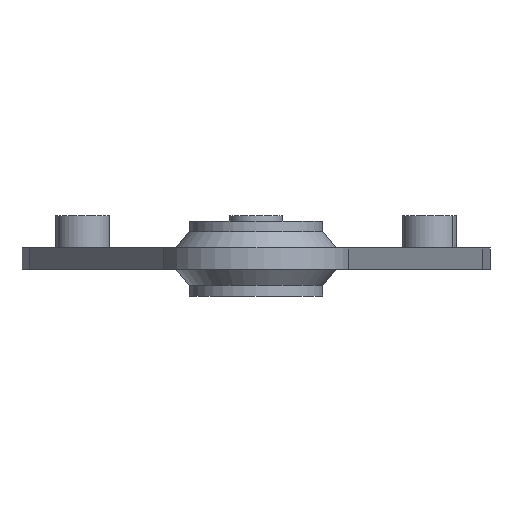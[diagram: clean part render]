
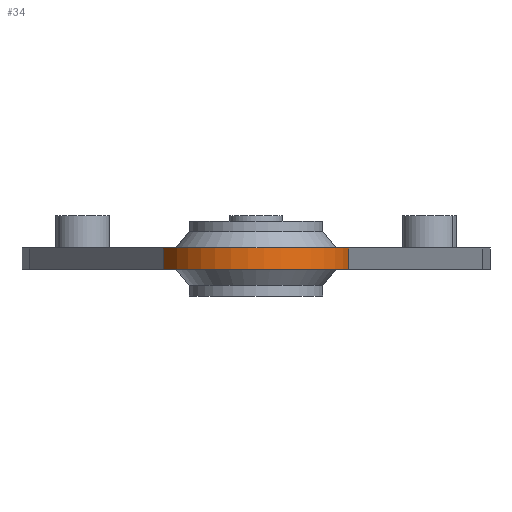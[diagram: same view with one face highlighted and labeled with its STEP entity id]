
A CAD part, front view. The second image highlights one B-rep face of the part: STEP entity #34.
In plain terms, the highlighted cylindrical face has radius 18 mm (diameter 36 mm), a partial arc.
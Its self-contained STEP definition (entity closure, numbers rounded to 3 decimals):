
#34=ADVANCED_FACE('',(#72),#618,.T.);
#72=FACE_OUTER_BOUND('',#110,.T.);
#110=EDGE_LOOP('',(#172,#173,#174,#175));
#172=ORIENTED_EDGE('',*,*,#341,.T.);
#173=ORIENTED_EDGE('',*,*,#331,.T.);
#174=ORIENTED_EDGE('',*,*,#342,.T.);
#175=ORIENTED_EDGE('',*,*,#336,.T.);
#331=EDGE_CURVE('',#555,#557,#525,.T.);
#336=EDGE_CURVE('',#561,#560,#528,.T.);
#341=EDGE_CURVE('',#560,#555,#418,.T.);
#342=EDGE_CURVE('',#557,#561,#419,.T.);
#418=TRIMMED_CURVE($,#472,(#1232),(#1233),.T.,.CARTESIAN.);
#419=TRIMMED_CURVE($,#473,(#1235),(#1236),.T.,.CARTESIAN.);
#472=CIRCLE('',#865,18.);
#473=CIRCLE('',#866,18.);
#525=B_SPLINE_CURVE_WITH_KNOTS('',1,(#1207,#1208),.UNSPECIFIED.,.F.,.F.,
(2,2),(-4.,0.),.UNSPECIFIED.);
#528=B_SPLINE_CURVE_WITH_KNOTS('',1,(#1219,#1220),.UNSPECIFIED.,.F.,.F.,
(2,2),(-4.,0.),.UNSPECIFIED.);
#555=VERTEX_POINT('',#1144);
#557=VERTEX_POINT('',#1146);
#560=VERTEX_POINT('',#1149);
#561=VERTEX_POINT('',#1150);
#618=CYLINDRICAL_SURFACE('',#831,18.);
#831=AXIS2_PLACEMENT_3D('',#1073,#925,$);
#865=AXIS2_PLACEMENT_3D($,#1231,#963,#964);
#866=AXIS2_PLACEMENT_3D($,#1234,#965,#966);
#925=DIRECTION('',(0.,0.,-1.));
#963=DIRECTION('',(0.,0.,1.));
#964=DIRECTION('',(-0.966,-0.26,0.));
#965=DIRECTION('',(0.,0.,-1.));
#966=DIRECTION('',(0.966,-0.26,0.));
#1073=CARTESIAN_POINT('',(0.,-100.,0.));
#1144=CARTESIAN_POINT('',(17.381,-104.68,-2.));
#1146=CARTESIAN_POINT('',(17.381,-104.68,2.));
#1149=CARTESIAN_POINT('',(-17.381,-104.68,-2.));
#1150=CARTESIAN_POINT('',(-17.381,-104.68,2.));
#1207=CARTESIAN_POINT('',(17.381,-104.68,-2.));
#1208=CARTESIAN_POINT('',(17.381,-104.68,2.));
#1219=CARTESIAN_POINT('',(-17.381,-104.68,2.));
#1220=CARTESIAN_POINT('',(-17.381,-104.68,-2.));
#1231=CARTESIAN_POINT('',(0.,-100.,-2.));
#1232=CARTESIAN_POINT('',(-17.381,-104.68,-2.));
#1233=CARTESIAN_POINT('',(17.381,-104.68,-2.));
#1234=CARTESIAN_POINT('',(0.,-100.,2.));
#1235=CARTESIAN_POINT('',(17.381,-104.68,2.));
#1236=CARTESIAN_POINT('',(-17.381,-104.68,2.));
